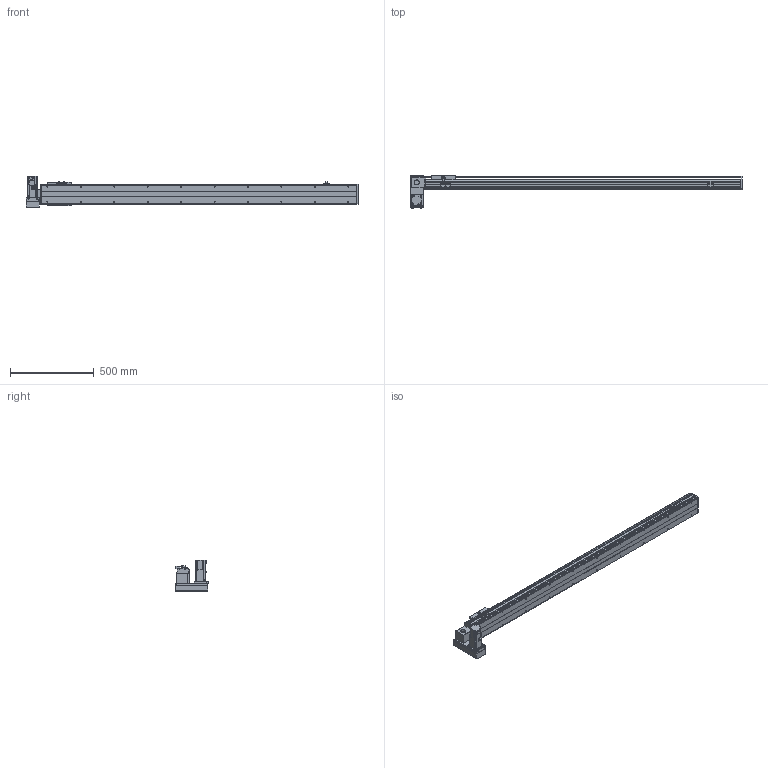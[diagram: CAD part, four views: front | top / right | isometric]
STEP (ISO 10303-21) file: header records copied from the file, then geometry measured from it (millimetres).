
FILE_DESCRIPTION( ( 'STEP AP214' ), '1' );
FILE_NAME( 'x:/temp/worker_5/temp/exporttempdir_3988_382_gWau0/format_0/PBS120-P40-S1600-LD-T40-C1-N(0).stp', '2022-06-08T08:12:14', ( 'License CC BY-ND 4.0' ), ( 'CADENAS' ), ' ', 'PARTsolutions', ' ' );
FILE_SCHEMA( ( 'AUTOMOTIVE_DESIGN { 1 0 10303 214 1 1 1 1 }' ) );
Length unit declared in the file: millimetre
Products named in the file (7): PBS120-P40-S1600-LD-T40-C1-N(0); _PBS120-S1600()_body; _PBS120T-LD_motors; _T40-p1; _PBS120_sliser; _PBS120_plant; _PBS120_sensor
Assembly tree (8 placements, depth 2):
  PBS120-P40-S1600-LD-T40-C1-N(0)
    _PBS120-S1600()_body
    _PBS120T-LD_motors
    _T40-p1
    _PBS120_sliser
    _PBS120_plant
    _PBS120_sensor  x3
Bounding box: 1986 x 196 x 189.7 mm (x, y, z)
Volume: 7914372.7 mm3; surface area: 1594553.3 mm2
Topology: 8 solids, 8 shells, 840 faces, 2176 edges, 1399 vertices
Faces by surface type: plane 553, cylinder 233, cone 52, torus 2
Full cylindrical faces by diameter (mm): 2.459 x6, 3.242 x4, 4 x2, 4.134 x4, 4.5 x10, 4.917 x24, 5.5 x11, 6 x2, 6.6 x1, 7 x2, 8.5 x4, 9 x4, 12 x1, 14 x1, 30 x2, 40 x1, 50 x2
Entity records: 27660 total; most frequent: DIRECTION 3788, CARTESIAN_POINT 3713, ORIENTED_EDGE 3526, EDGE_CURVE 1763, AXIS2_PLACEMENT_3D 1280, LINE 1228, VECTOR 1228, VERTEX_POINT 1205
